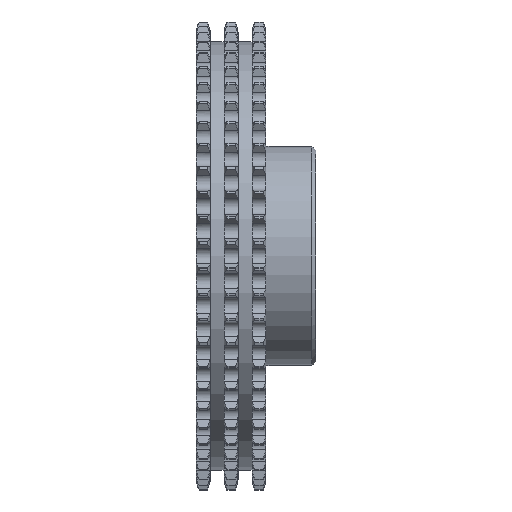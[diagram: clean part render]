
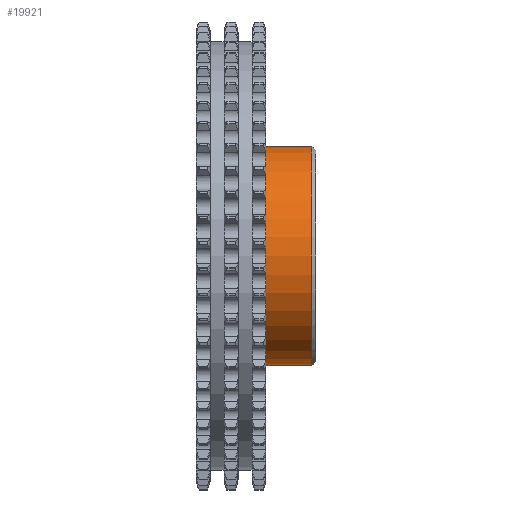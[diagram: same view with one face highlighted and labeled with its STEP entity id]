
A CAD part, front view. The second image highlights one B-rep face of the part: STEP entity #19921.
In plain terms, the highlighted cylindrical face has radius 55 mm (diameter 110 mm), a full revolution.
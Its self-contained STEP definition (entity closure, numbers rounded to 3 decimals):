
#23=FACE_BOUND('',#2521,.T.);
#1442=FACE_OUTER_BOUND('',#2520,.T.);
#2520=EDGE_LOOP('',(#17874));
#2521=EDGE_LOOP('',(#17875));
#5072=CIRCLE('',#22094,55.);
#5073=CIRCLE('',#22095,55.);
#8569=VERTEX_POINT('',#40426);
#8570=VERTEX_POINT('',#40428);
#11757=EDGE_CURVE('',#8569,#8569,#5072,.T.);
#11758=EDGE_CURVE('',#8570,#8570,#5073,.T.);
#17874=ORIENTED_EDGE('',*,*,#11757,.T.);
#17875=ORIENTED_EDGE('',*,*,#11758,.F.);
#18857=CYLINDRICAL_SURFACE('',#22093,55.);
#19921=ADVANCED_FACE('',(#1442,#23),#18857,.T.);
#22093=AXIS2_PLACEMENT_3D('',#40425,#27146,#27147);
#22094=AXIS2_PLACEMENT_3D('',#40427,#27148,#27149);
#22095=AXIS2_PLACEMENT_3D('',#40429,#27150,#27151);
#27146=DIRECTION('center_axis',(1.,0.,0.));
#27147=DIRECTION('ref_axis',(0.,1.,0.));
#27148=DIRECTION('center_axis',(1.,0.,0.));
#27149=DIRECTION('ref_axis',(0.,0.,-1.));
#27150=DIRECTION('center_axis',(1.,0.,0.));
#27151=DIRECTION('ref_axis',(0.,0.,-1.));
#40425=CARTESIAN_POINT('Origin',(39.323,-13.182,0.));
#40426=CARTESIAN_POINT('',(25.823,41.818,0.));
#40427=CARTESIAN_POINT('Origin',(25.823,-13.182,0.));
#40428=CARTESIAN_POINT('',(48.823,41.818,0.));
#40429=CARTESIAN_POINT('Origin',(48.823,-13.182,0.));
